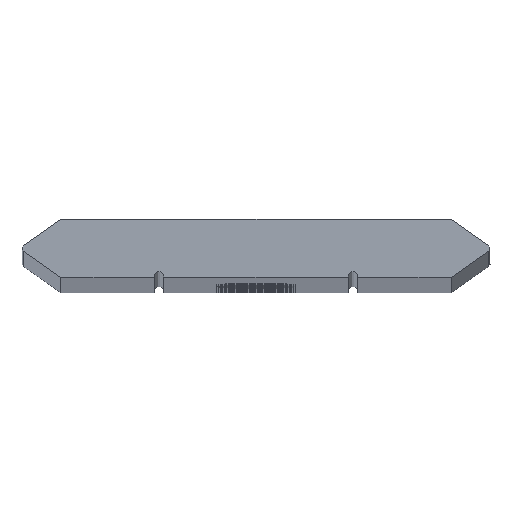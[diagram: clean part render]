
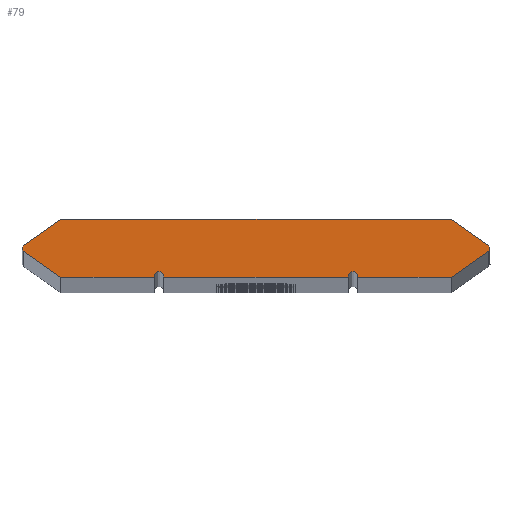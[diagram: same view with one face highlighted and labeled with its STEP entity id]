
A CAD part, top view. The second image highlights one B-rep face of the part: STEP entity #79.
In plain terms, the highlighted planar face has unit normal (0, 0, 1).
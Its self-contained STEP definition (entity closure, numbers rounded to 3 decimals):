
#79=ADVANCED_FACE('',(#166),#167,.F.);
#166=FACE_OUTER_BOUND('',#378,.T.);
#167=PLANE('',#379);
#378=EDGE_LOOP('',(#622,#623,#624,#625,#626,#627,#628,#629,#630,#631,#632,#633,#634,#635,#636,#637));
#379=AXIS2_PLACEMENT_3D('',#638,#639,#640);
#622=ORIENTED_EDGE('',*,*,#1029,.F.);
#623=ORIENTED_EDGE('',*,*,#1004,.F.);
#624=ORIENTED_EDGE('',*,*,#1030,.F.);
#625=ORIENTED_EDGE('',*,*,#1031,.F.);
#626=ORIENTED_EDGE('',*,*,#1032,.F.);
#627=ORIENTED_EDGE('',*,*,#1015,.F.);
#628=ORIENTED_EDGE('',*,*,#1033,.F.);
#629=ORIENTED_EDGE('',*,*,#1034,.F.);
#630=ORIENTED_EDGE('',*,*,#1035,.F.);
#631=ORIENTED_EDGE('',*,*,#1036,.F.);
#632=ORIENTED_EDGE('',*,*,#1037,.F.);
#633=ORIENTED_EDGE('',*,*,#1038,.F.);
#634=ORIENTED_EDGE('',*,*,#1008,.F.);
#635=ORIENTED_EDGE('',*,*,#1039,.F.);
#636=ORIENTED_EDGE('',*,*,#1040,.F.);
#637=ORIENTED_EDGE('',*,*,#1041,.F.);
#638=CARTESIAN_POINT('',(37.918,0.,0.));
#639=DIRECTION('',(0.,0.0,-1.0));
#640=DIRECTION('',(0.,1.0,0.));
#1004=EDGE_CURVE('',#1132,#1133,#1134,.T.);
#1008=EDGE_CURVE('',#1140,#1141,#1142,.T.);
#1015=EDGE_CURVE('',#1153,#1149,#1155,.T.);
#1029=EDGE_CURVE('',#1133,#1179,#1180,.T.);
#1030=EDGE_CURVE('',#1181,#1132,#1182,.T.);
#1031=EDGE_CURVE('',#1183,#1181,#1184,.T.);
#1032=EDGE_CURVE('',#1149,#1183,#1185,.T.);
#1033=EDGE_CURVE('',#1186,#1153,#1187,.T.);
#1034=EDGE_CURVE('',#1188,#1186,#1189,.T.);
#1035=EDGE_CURVE('',#1190,#1188,#1191,.T.);
#1036=EDGE_CURVE('',#1192,#1190,#1193,.T.);
#1037=EDGE_CURVE('',#1194,#1192,#1195,.T.);
#1038=EDGE_CURVE('',#1141,#1194,#1196,.T.);
#1039=EDGE_CURVE('',#1197,#1140,#1198,.T.);
#1040=EDGE_CURVE('',#1199,#1197,#1200,.T.);
#1041=EDGE_CURVE('',#1179,#1199,#1201,.T.);
#1132=VERTEX_POINT('',#1340);
#1133=VERTEX_POINT('',#1341);
#1134=LINE('',#1342,#1343);
#1140=VERTEX_POINT('',#1352);
#1141=VERTEX_POINT('',#1353);
#1142=LINE('',#1354,#1355);
#1149=VERTEX_POINT('',#1365);
#1153=VERTEX_POINT('',#1371);
#1155=LINE('',#1374,#1375);
#1179=VERTEX_POINT('',#1408);
#1180=LINE('',#1409,#1410);
#1181=VERTEX_POINT('',#1411);
#1182=LINE('',#1412,#1413);
#1183=VERTEX_POINT('',#1414);
#1184=CIRCLE('',#1415,0.545);
#1185=LINE('',#1416,#1417);
#1186=VERTEX_POINT('',#1418);
#1187=LINE('',#1419,#1420);
#1188=VERTEX_POINT('',#1421);
#1189=CIRCLE('',#1422,0.75);
#1190=VERTEX_POINT('',#1423);
#1191=LINE('',#1424,#1425);
#1192=VERTEX_POINT('',#1426);
#1193=LINE('',#1427,#1428);
#1194=VERTEX_POINT('',#1429);
#1195=LINE('',#1430,#1431);
#1196=CIRCLE('',#1432,0.75);
#1197=VERTEX_POINT('',#1433);
#1198=LINE('',#1434,#1435);
#1199=VERTEX_POINT('',#1436);
#1200=LINE('',#1437,#1438);
#1201=CIRCLE('',#1439,0.545);
#1340=CARTESIAN_POINT('',(-31.671,4.715,0.));
#1341=CARTESIAN_POINT('',(31.671,4.715,0.));
#1342=CARTESIAN_POINT('',(-32.056,4.715,0.));
#1343=VECTOR('',#1604,1.0);
#1352=CARTESIAN_POINT('',(16.5,-4.715,0.));
#1353=CARTESIAN_POINT('',(16.5,-4.465,0.));
#1354=CARTESIAN_POINT('',(16.5,-4.715,0.));
#1355=VECTOR('',#1608,1.0);
#1365=CARTESIAN_POINT('',(-31.671,-4.715,0.));
#1371=CARTESIAN_POINT('',(-16.5,-4.715,0.));
#1374=CARTESIAN_POINT('',(-16.5,-4.715,0.));
#1375=VECTOR('',#1615,1.0);
#1408=CARTESIAN_POINT('',(37.768,0.446,0.));
#1409=CARTESIAN_POINT('',(38.078,0.229,0.));
#1410=VECTOR('',#1637,1.0);
#1411=CARTESIAN_POINT('',(-37.768,0.446,0.));
#1412=CARTESIAN_POINT('',(12.809,35.86,0.));
#1413=VECTOR('',#1638,1.0);
#1414=CARTESIAN_POINT('',(-37.768,-0.446,0.));
#1415=AXIS2_PLACEMENT_3D('',#1639,#1640,#1641);
#1416=CARTESIAN_POINT('',(12.809,-35.86,0.));
#1417=VECTOR('',#1642,1.0);
#1418=CARTESIAN_POINT('',(-16.5,-4.465,0.));
#1419=CARTESIAN_POINT('',(-16.5,-4.465,0.));
#1420=VECTOR('',#1643,1.0);
#1421=CARTESIAN_POINT('',(-15.0,-4.465,0.));
#1422=AXIS2_PLACEMENT_3D('',#1644,#1645,#1646);
#1423=CARTESIAN_POINT('',(-15.0,-4.715,0.));
#1424=CARTESIAN_POINT('',(-15.0,-4.715,0.));
#1425=VECTOR('',#1647,1.0);
#1426=CARTESIAN_POINT('',(15.0,-4.715,0.));
#1427=CARTESIAN_POINT('',(15.0,-4.715,0.));
#1428=VECTOR('',#1648,1.0);
#1429=CARTESIAN_POINT('',(15.0,-4.465,0.));
#1430=CARTESIAN_POINT('',(15.0,-4.465,0.));
#1431=VECTOR('',#1649,1.0);
#1432=AXIS2_PLACEMENT_3D('',#1650,#1651,#1652);
#1433=CARTESIAN_POINT('',(31.671,-4.715,0.));
#1434=CARTESIAN_POINT('',(32.056,-4.715,0.));
#1435=VECTOR('',#1653,1.0);
#1436=CARTESIAN_POINT('',(37.768,-0.446,0.));
#1437=CARTESIAN_POINT('',(38.078,-0.229,0.));
#1438=VECTOR('',#1654,1.0);
#1439=AXIS2_PLACEMENT_3D('',#1655,#1656,#1657);
#1604=DIRECTION('',(1.0,0.,0.));
#1608=DIRECTION('',(0.,1.0,0.));
#1615=DIRECTION('',(-1.0,0.,0.));
#1637=DIRECTION('',(0.819,-0.574,0.));
#1638=DIRECTION('',(0.819,0.574,0.));
#1639=CARTESIAN_POINT('',(-37.455,0.,0.));
#1640=DIRECTION('',(0.,0.,-1.0));
#1641=DIRECTION('',(0.,-1.0,0.));
#1642=DIRECTION('',(-0.819,0.574,0.));
#1643=DIRECTION('',(0.,-1.0,0.));
#1644=CARTESIAN_POINT('',(-15.75,-4.465,0.));
#1645=DIRECTION('',(0.,0.,1.0));
#1646=DIRECTION('',(0.,1.0,0.));
#1647=DIRECTION('',(0.,1.0,0.));
#1648=DIRECTION('',(-1.0,0.,0.));
#1649=DIRECTION('',(0.,-1.0,0.));
#1650=CARTESIAN_POINT('',(15.75,-4.465,0.));
#1651=DIRECTION('',(0.,0.,1.0));
#1652=DIRECTION('',(0.,1.0,0.));
#1653=DIRECTION('',(-1.0,0.,0.));
#1654=DIRECTION('',(-0.819,-0.574,0.));
#1655=CARTESIAN_POINT('',(37.455,0.,0.));
#1656=DIRECTION('',(0.,0.,-1.0));
#1657=DIRECTION('',(0.,-1.0,0.));
